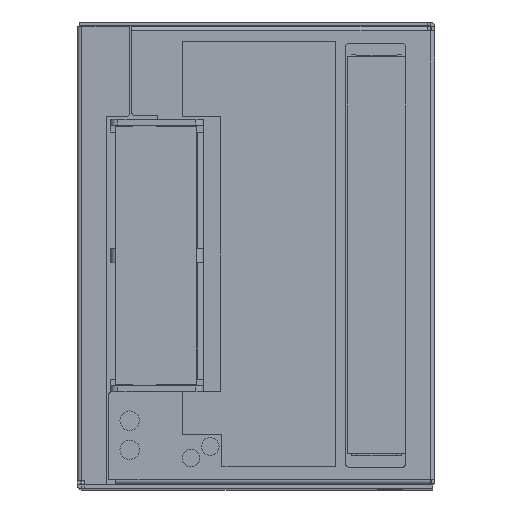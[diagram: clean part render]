
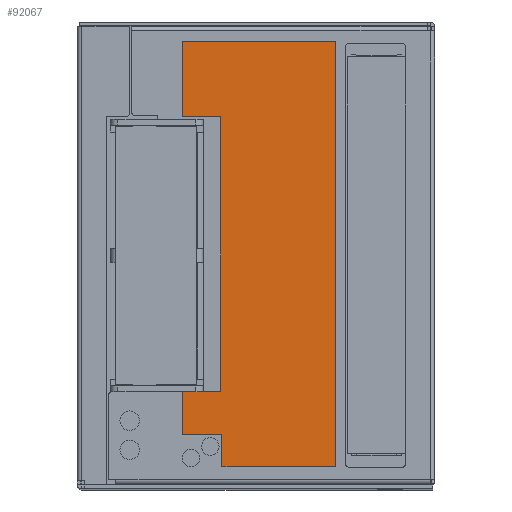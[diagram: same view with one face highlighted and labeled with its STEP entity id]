
A CAD part, top view. The second image highlights one B-rep face of the part: STEP entity #92067.
In plain terms, the highlighted planar face has unit normal (0, 0, 1).
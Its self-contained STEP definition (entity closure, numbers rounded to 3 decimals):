
#39748 = CARTESIAN_POINT ( 'NONE',  ( -25.5, 115.1, -1. ) ) ;
#39749 = LINE ( 'NONE', #39748, #39803 ) ;
#39751 = CARTESIAN_POINT ( 'NONE',  ( -65., 115.1, -1. ) ) ;
#39802 = DIRECTION ( 'NONE',  ( -1., 0., 0. ) ) ;
#39803 = VECTOR ( 'NONE', #39802, 1000. ) ;
#39880 = CARTESIAN_POINT ( 'NONE',  ( -25.5, 115.1, -1. ) ) ;
#39911 = CARTESIAN_POINT ( 'NONE',  ( -25.5, 5.6, -1. ) ) ;
#39912 = DIRECTION ( 'NONE',  ( 0., 1., 0. ) ) ;
#39913 = VECTOR ( 'NONE', #39912, 1000. ) ;
#39914 = CARTESIAN_POINT ( 'NONE',  ( -25.5, 5.6, -1. ) ) ;
#39915 = LINE ( 'NONE', #39914, #39913 ) ;
#40069 = DIRECTION ( 'NONE',  ( -1., 0., 0. ) ) ;
#40070 = VECTOR ( 'NONE', #40069, 1000. ) ;
#40071 = CARTESIAN_POINT ( 'NONE',  ( -55., 25.1, -1. ) ) ;
#40072 = LINE ( 'NONE', #40071, #40070 ) ;
#40074 = CARTESIAN_POINT ( 'NONE',  ( -65., 25.1, -1. ) ) ;
#40096 = DIRECTION ( 'NONE',  ( 1., 0., 0. ) ) ;
#40097 = VECTOR ( 'NONE', #40096, 1000. ) ;
#40098 = CARTESIAN_POINT ( 'NONE',  ( -65., 95.6, -1. ) ) ;
#40099 = LINE ( 'NONE', #40098, #40097 ) ;
#40176 = CARTESIAN_POINT ( 'NONE',  ( -65., 95.6, -1. ) ) ;
#40185 = DIRECTION ( 'NONE',  ( 0., -1., 0. ) ) ;
#40186 = VECTOR ( 'NONE', #40185, 1000. ) ;
#40187 = CARTESIAN_POINT ( 'NONE',  ( -55., 95.6, -1. ) ) ;
#40188 = LINE ( 'NONE', #40187, #40186 ) ;
#40189 = CARTESIAN_POINT ( 'NONE',  ( -55., 25.1, -1. ) ) ;
#40220 = DIRECTION ( 'NONE',  ( 0., -1., 0. ) ) ;
#40221 = VECTOR ( 'NONE', #40220, 1000. ) ;
#40222 = CARTESIAN_POINT ( 'NONE',  ( -65., 115.1, -1. ) ) ;
#40223 = LINE ( 'NONE', #40222, #40221 ) ;
#40276 = CARTESIAN_POINT ( 'NONE',  ( -55., 95.6, -1. ) ) ;
#40300 = DIRECTION ( 'NONE',  ( 1., 0., 0. ) ) ;
#40301 = VECTOR ( 'NONE', #40300, 1000. ) ;
#40302 = CARTESIAN_POINT ( 'NONE',  ( -54.75, 5.6, -1. ) ) ;
#40303 = LINE ( 'NONE', #40302, #40301 ) ;
#40329 = DIRECTION ( 'NONE',  ( 1., 0., 0. ) ) ;
#40330 = VECTOR ( 'NONE', #40329, 1000. ) ;
#40331 = CARTESIAN_POINT ( 'NONE',  ( -65., 13.85, -1. ) ) ;
#40332 = LINE ( 'NONE', #40331, #40330 ) ;
#40334 = CARTESIAN_POINT ( 'NONE',  ( -54.75, 13.85, -1. ) ) ;
#40371 = CARTESIAN_POINT ( 'NONE',  ( -54.75, 5.6, -1. ) ) ;
#40399 = DIRECTION ( 'NONE',  ( 0., -1., 0. ) ) ;
#40400 = VECTOR ( 'NONE', #40399, 1000. ) ;
#40401 = CARTESIAN_POINT ( 'NONE',  ( -65., 25.1, -1. ) ) ;
#40402 = LINE ( 'NONE', #40401, #40400 ) ;
#40404 = CARTESIAN_POINT ( 'NONE',  ( -65., 13.85, -1. ) ) ;
#40422 = DIRECTION ( 'NONE',  ( 0., -1., 0. ) ) ;
#40423 = VECTOR ( 'NONE', #40422, 1000. ) ;
#40424 = CARTESIAN_POINT ( 'NONE',  ( -54.75, 13.85, -1. ) ) ;
#40425 = LINE ( 'NONE', #40424, #40423 ) ;
#68796 = VERTEX_POINT ( 'NONE', #39751 ) ;
#68801 = EDGE_CURVE ( 'NONE', #68842, #68796, #39749, .T. ) ;
#68842 = VERTEX_POINT ( 'NONE', #39880 ) ;
#68847 = EDGE_CURVE ( 'NONE', #68850, #68842, #39915, .T. ) ;
#68850 = VERTEX_POINT ( 'NONE', #39911 ) ;
#68904 = VERTEX_POINT ( 'NONE', #40074 ) ;
#68908 = EDGE_CURVE ( 'NONE', #68955, #68904, #40072, .T. ) ;
#68927 = EDGE_CURVE ( 'NONE', #68967, #68997, #40099, .T. ) ;
#68955 = VERTEX_POINT ( 'NONE', #40189 ) ;
#68960 = EDGE_CURVE ( 'NONE', #68997, #68955, #40188, .T. ) ;
#68967 = VERTEX_POINT ( 'NONE', #40176 ) ;
#68971 = EDGE_CURVE ( 'NONE', #68796, #68967, #40223, .T. ) ;
#68997 = VERTEX_POINT ( 'NONE', #40276 ) ;
#69011 = EDGE_CURVE ( 'NONE', #69050, #68850, #40303, .T. ) ;
#69024 = VERTEX_POINT ( 'NONE', #40334 ) ;
#69027 = EDGE_CURVE ( 'NONE', #69077, #69024, #40332, .T. ) ;
#69050 = VERTEX_POINT ( 'NONE', #40371 ) ;
#69055 = EDGE_CURVE ( 'NONE', #69024, #69050, #40425, .T. ) ;
#69077 = VERTEX_POINT ( 'NONE', #40404 ) ;
#69083 = EDGE_CURVE ( 'NONE', #68904, #69077, #40402, .T. ) ;
#92042 = ORIENTED_EDGE ( 'NONE', *, *, #68960, .T. ) ;
#92044 = ORIENTED_EDGE ( 'NONE', *, *, #68908, .T. ) ;
#92045 = ORIENTED_EDGE ( 'NONE', *, *, #69083, .T. ) ;
#92046 = ORIENTED_EDGE ( 'NONE', *, *, #69027, .T. ) ;
#92047 = ORIENTED_EDGE ( 'NONE', *, *, #69055, .T. ) ;
#92067 = ADVANCED_FACE ( 'NONE', ( #96163 ), #96198, .T. ) ;
#92068 = EDGE_LOOP ( 'NONE', ( #92070, #92072, #92074, #92077, #92160, #92042, #92044, #92045, #92046, #92047 ) ) ;
#92070 = ORIENTED_EDGE ( 'NONE', *, *, #69011, .T. ) ;
#92072 = ORIENTED_EDGE ( 'NONE', *, *, #68847, .T. ) ;
#92074 = ORIENTED_EDGE ( 'NONE', *, *, #68801, .T. ) ;
#92077 = ORIENTED_EDGE ( 'NONE', *, *, #68971, .T. ) ;
#92160 = ORIENTED_EDGE ( 'NONE', *, *, #68927, .T. ) ;
#96163 = FACE_OUTER_BOUND ( 'NONE', #92068, .T. ) ;
#96193 = DIRECTION ( 'NONE',  ( 1., 0., 0. ) ) ;
#96194 = DIRECTION ( 'NONE',  ( 0., 0., 1. ) ) ;
#96195 = CARTESIAN_POINT ( 'NONE',  ( -91., 1., -1. ) ) ;
#96196 = AXIS2_PLACEMENT_3D ( 'NONE', #96195, #96194, #96193 ) ;
#96198 = PLANE ( 'NONE',  #96196 ) ;
